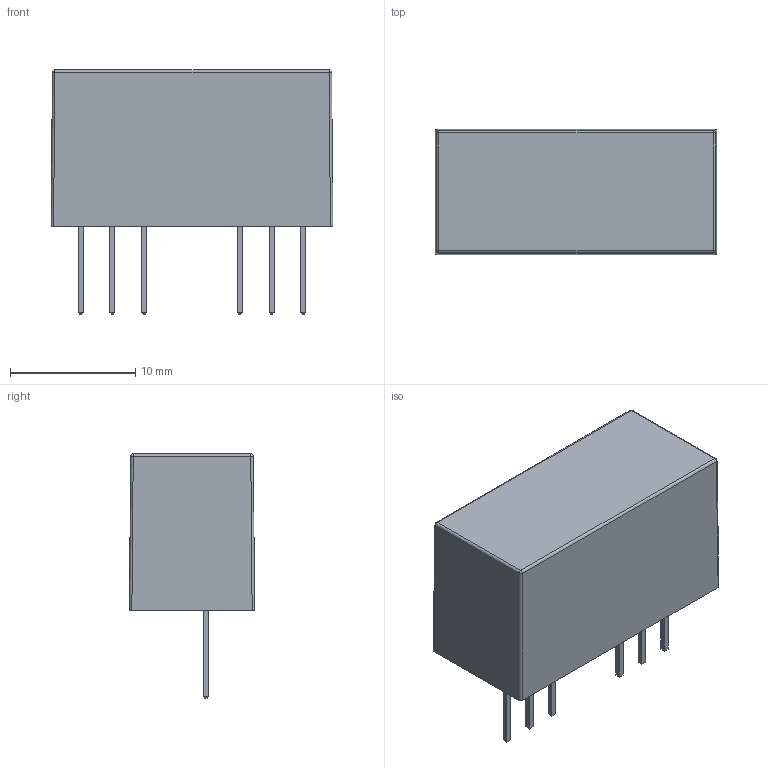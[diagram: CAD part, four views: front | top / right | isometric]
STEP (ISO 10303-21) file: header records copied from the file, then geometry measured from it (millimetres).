
FILE_DESCRIPTION(/* description */ (''),/* implementation_level */ '2;1');
FILE_NAME(/* name */ 'D:\Inventor\SP10F\SP10F.stp',/* time_stamp */ '2020-07-10T10:38:18+08:00',/* author */ ('peter'),/* organization */ (''),/* preprocessor_version */ 'ST-DEVELOPER v15.2',/* originating_system */ 'Autodesk Inventor 2014',/* authorisation */ '');
FILE_SCHEMA (('AUTOMOTIVE_DESIGN { 1 0 10303 214 3 1 1 }'));
Length unit declared in the file: millimetre
Products named in the file (4): TOP CASE; BOT CASE; PCB; SP10F
Bounding box: 22.5 x 10 x 19.5 mm (x, y, z)
Volume: 1109.5 mm3; surface area: 3204.7 mm2
Topology: 3 solids, 3 shells, 157 faces, 388 edges, 240 vertices
Faces by surface type: plane 131, cylinder 18, sphere 4, cone 4
Entity records: 4694 total; most frequent: CARTESIAN_POINT 792, ORIENTED_EDGE 776, DIRECTION 756, EDGE_CURVE 388, LINE 348, VECTOR 348, VERTEX_POINT 240, AXIS2_PLACEMENT_3D 204
